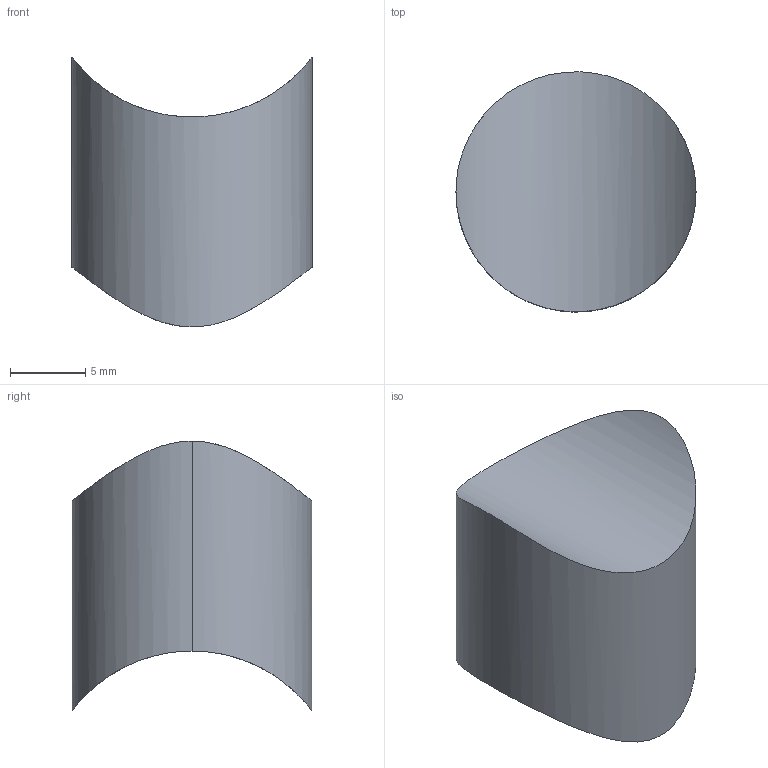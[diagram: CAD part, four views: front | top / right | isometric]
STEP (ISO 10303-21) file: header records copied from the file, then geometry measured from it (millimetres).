
FILE_DESCRIPTION (( 'STEP AP214' ), '1' );
FILE_NAME ('Cilon_Rail_overlap_connector.STEP', '2018-12-04T03:09:24', ( '' ), ( '' ), 'SwSTEP 2.0', 'SolidWorks 2017', '' );
FILE_SCHEMA (( 'AUTOMOTIVE_DESIGN' ));
Length unit declared in the file: millimetre
Products named in the file (1): Cilon_Rail_overlap_connector
Bounding box: 16 x 15.99 x 18 mm (x, y, z)
Volume: 2365.5 mm3; surface area: 1137.6 mm2
Topology: 1 solids, 1 shells, 4 faces, 6 edges, 4 vertices
Faces by surface type: cylinder 4
Entity records: 318 total; most frequent: CARTESIAN_POINT 217, DIRECTION 12, ORIENTED_EDGE 12, EDGE_CURVE 6, AXIS2_PLACEMENT_3D 5, CYLINDRICAL_SURFACE 4, FACE_OUTER_BOUND 4, EDGE_LOOP 4
